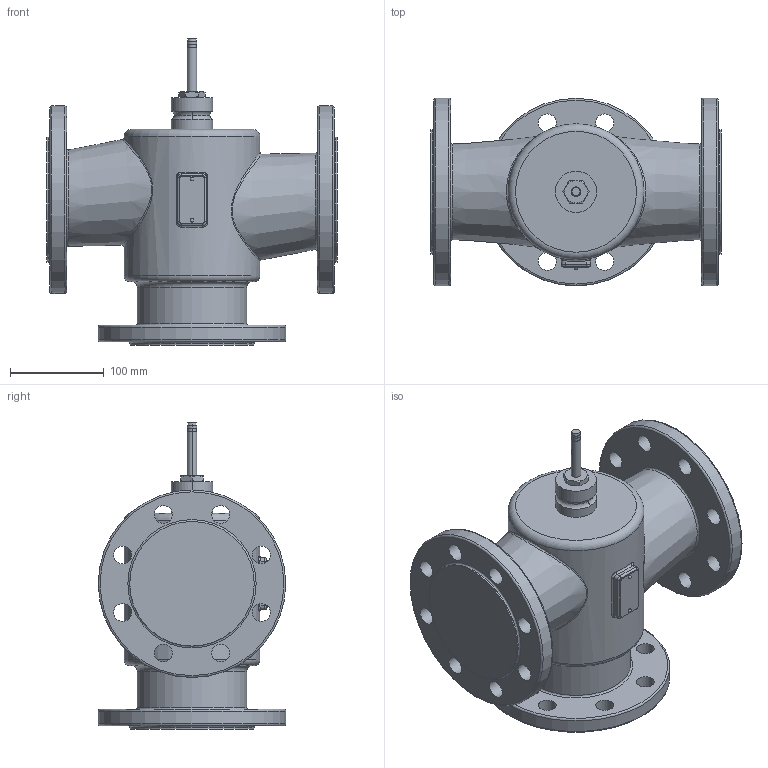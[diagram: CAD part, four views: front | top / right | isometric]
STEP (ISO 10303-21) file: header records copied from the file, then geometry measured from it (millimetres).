
FILE_DESCRIPTION(/* description */ (''),/* implementation_level */ '2;1');
FILE_NAME(/* name */ 'RAS_023462_00.stp',/* time_stamp */ '2013-01-10T08:39:35+01:00',/* author */ (''),/* organization */ (''),/* preprocessor_version */ 'ST-DEVELOPER v11',/* originating_system */ 'SIEMENS UGS NX 6.0',/* authorisation */ '');
FILE_SCHEMA (('AUTOMOTIVE_DESIGN { 1 0 10303 214 1 1 1 1 }'));
Length unit declared in the file: millimetre
Products named in the file (1): RontE95Cebja
Bounding box: 310 x 200 x 326.5 mm (x, y, z)
Volume: 6178353.9 mm3; surface area: 351924.6 mm2
Topology: 1 solids, 1 shells, 129 faces, 308 edges, 194 vertices
Faces by surface type: cylinder 56, plane 32, torus 19, bspline 12, cone 8, sphere 2
Full cylindrical faces by diameter (mm): 19 x24, 117 x1, 132 x1, 132.8 x2, 145 x1, 200 x3
Entity records: 4684 total; most frequent: CARTESIAN_POINT 1858, DIRECTION 600, ORIENTED_EDGE 482, AXIS2_PLACEMENT_3D 271, EDGE_LOOP 246, EDGE_CURVE 241, VERTEX_POINT 183, FACE_BOUND 182
